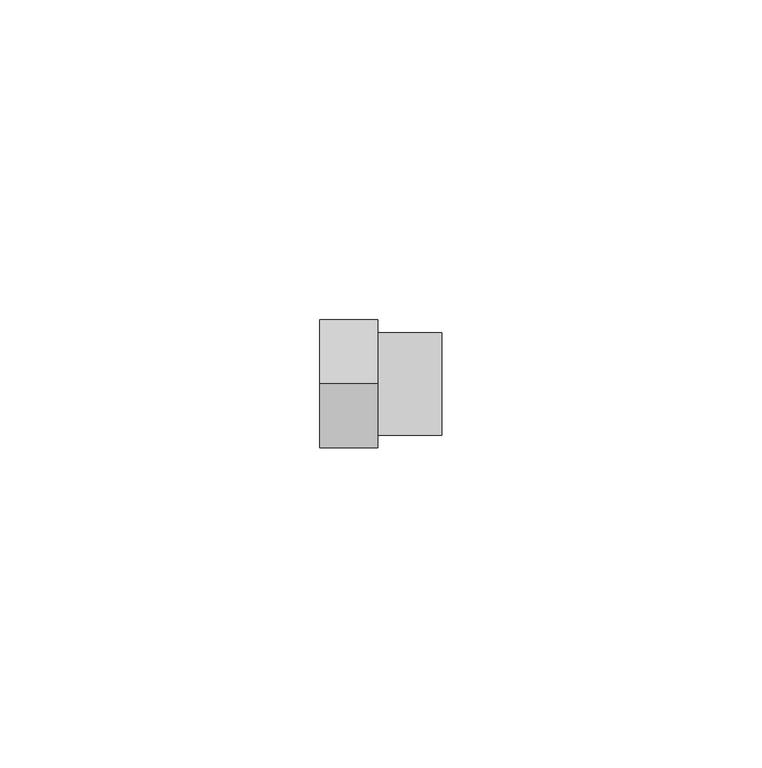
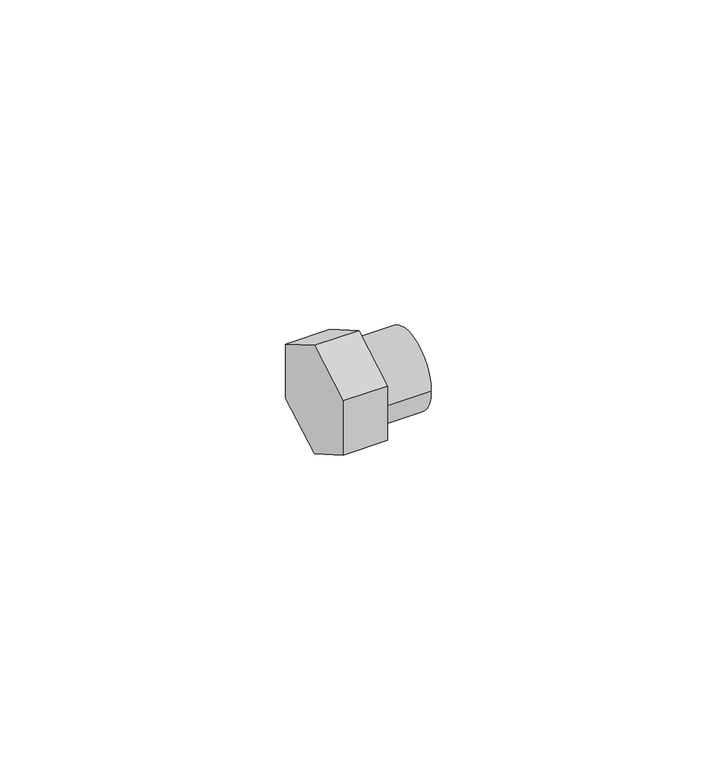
"""IFC4 building model written with IfcOpenShell, lengths in millimetres: pipe fitting geometry, Euroconus screwing for multilayer pipes : Euroconus screwing for multilayer pipes."""

from ifc_helpers import new_model, si_unit, point, frame, origin, origin_2d, place, context, project, spatial, circle_curve, trimmed, segment, composite_curve, outline, extrude, source, transform, mapped, element, save
from ifc_brep_helpers import plane_surface, cylinder_surface, advanced_brep


def pipe_fitting_4e9be276(model_context):
    return source(origin(), model_context, "Body", "SolidModel", [
        extrude(outline(composite_curve([segment(trimmed(circle_curve(origin_2d(), 8.0), [point((-8.0, 0.0))], [point((8.0, 0.0))], False, "CARTESIAN"), True, "CONTINUOUS"), segment(trimmed(circle_curve(origin_2d(), 8.0), [point((8.0, 0.0))], [point((-8.0, 0.0))], False, "CARTESIAN"), True, "CONTINUOUS")], self_intersect=False)), frame((0.0, 0.0, 0.0), z_axis=(1.0, 0.0, 0.0), x_axis=(0.0, 1.0, 0.0)), (0.0, 0.0, 1.0), 10.0),
        advanced_brep(
        [(1.0, 6.0, 0.0), (1.0, -6.0, 0.0), (0.0, 6.0, 0.0), (0.0, -6.0, 0.0), (0.0, 10.0, 5.7735027), (0.0, 0.0, 11.5470054), (0.0, -10.0, 5.7735027), (0.0, -10.0, -5.7735027), (0.0, 0.0, -11.5470054), (0.0, 10.0, -5.7735027), (-9.0, 10.0, 5.7735027), (-9.0, 10.0, -5.7735027), (-9.0, 0.0, -11.5470054), (-9.0, -10.0, -5.7735027), (-9.0, -10.0, 5.7735027), (-9.0, 0.0, 11.5470054)],
        [
            (0, 1, circle_curve(frame((1.0, 0.0, 0.0), z_axis=(1.0, 0.0, 0.0), x_axis=(0.0, -1.0, 0.0)), 6.0)),
            (1, 0, circle_curve(frame((1.0, 0.0, 0.0), z_axis=(1.0, 0.0, 0.0), x_axis=(0.0, -1.0, 0.0)), 6.0)),
            (0, 2),
            (2, 3, circle_curve(frame((0.0, 0.0, 0.0), z_axis=(1.0, 0.0, 0.0), x_axis=(0.0, -1.0, 0.0)), 6.0)),
            (3, 1),
            (3, 2, circle_curve(frame((0.0, 0.0, 0.0), z_axis=(1.0, 0.0, 0.0), x_axis=(0.0, -1.0, 0.0)), 6.0)),
            (4, 5),
            (5, 6),
            (6, 7),
            (7, 8),
            (8, 9),
            (9, 4),
            (10, 11),
            (11, 12),
            (12, 13),
            (13, 14),
            (14, 15),
            (15, 10),
            (9, 11),
            (10, 4),
            (8, 12),
            (7, 13),
            (6, 14),
            (5, 15),
        ],
        [
            plane_surface(frame((1.0, 0.0, 0.0), z_axis=(1.0, 0.0, 0.0), x_axis=(0.0, 0.0, 1.0))),
            cylinder_surface(frame((1.0, 0.0, 0.0), z_axis=(1.0, 0.0, 0.0), x_axis=(0.0, -1.0, 0.0)), 6.0),
            plane_surface(frame((0.0, 0.0, 11.5470054), z_axis=(1.0, 0.0, 0.0), x_axis=(0.0, -0.8660254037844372, 0.5000000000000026))),
            plane_surface(frame((-9.0, 0.0, 11.5470054), z_axis=(-1.0, 0.0, 0.0), x_axis=(0.0, 0.8660254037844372, -0.5000000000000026))),
            plane_surface(frame((0.0, 10.0, -5.7735027), z_axis=(0.0, 1.0, 0.0), x_axis=(-1.0, 0.0, 0.0))),
            plane_surface(frame((0.0, 0.0, -11.5470054), z_axis=(0.0, 0.5000000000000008, -0.8660254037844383), x_axis=(-1.0, 0.0, 0.0))),
            plane_surface(frame((0.0, -10.0, -5.7735027), z_axis=(0.0, -0.5000000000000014, -0.8660254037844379), x_axis=(-1.0, 0.0, 0.0))),
            plane_surface(frame((0.0, -10.0, 5.7735027), z_axis=(0.0, -1.0, 0.0), x_axis=(-1.0, 0.0, 0.0))),
            plane_surface(frame((0.0, 0.0, 11.5470054), z_axis=(0.0, -0.5000000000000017, 0.8660254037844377), x_axis=(-1.0, 0.0, 0.0))),
            plane_surface(frame((0.0, 10.0, 5.7735027), z_axis=(0.0, 0.5000000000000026, 0.8660254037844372), x_axis=(-1.0, 0.0, 0.0))),
        ],
        [
            (0, [[1, 2]]),
            (1, [[-1, 3, 4, 5]]),
            (1, [[-2, -5, 6, -3]]),
            (2, [[7, 8, 9, 10, 11, 12], [-4, -6]]),
            (3, [[13, 14, 15, 16, 17, 18]]),
            (4, [[-12, 19, -13, 20]]),
            (5, [[-11, 21, -14, -19]]),
            (6, [[-10, 22, -15, -21]]),
            (7, [[-9, 23, -16, -22]]),
            (8, [[-8, 24, -17, -23]]),
            (9, [[-7, -20, -18, -24]]),
        ],
    ),
    ])


if __name__ == "__main__":
    model = new_model("IFC4")
    model_context = context("Model", 3, world=origin())
    ifc_project = project(units=[si_unit("LENGTHUNIT", "METRE", prefix="MILLI")], contexts=[model_context])
    site = spatial("IfcSite", under=ifc_project)
    building = spatial("IfcBuilding", under=site)
    placement = place(None, origin())
    pipe_fitting_shape = pipe_fitting_4e9be276(model_context)
    element("IfcPipeFitting", 1, ObjectType="Euroconus screwing for multilayer pipes : Euroconus screwing for multilayer pipes", at=placement, inside=building, context=model_context, shape_type="MappedRepresentation", body=[
        mapped(pipe_fitting_shape, transform((0.0, 0.0, 0.0), x_axis=(1.0, 0.0, 0.0), y_axis=(0.0, 1.0, 0.0), z_axis=(0.0, 0.0, 1.0))),
    ])
    save(model, "model.ifc")
